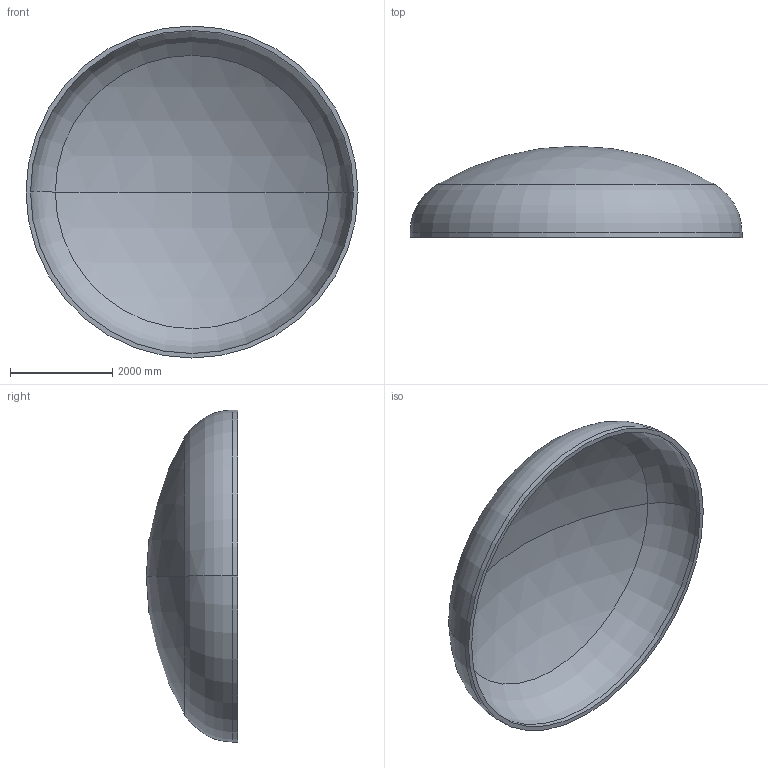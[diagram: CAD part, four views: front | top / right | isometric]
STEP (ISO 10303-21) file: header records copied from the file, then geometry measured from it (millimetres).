
FILE_DESCRIPTION (( 'STEP AP203' ), '1' );
FILE_NAME ('DIN 28013 Korbbogenform_-_Boden DIN 28013 - 6500 x 100 - I - s=88.step', '2016-07-04T10:43:36', ( '' ), ( '' ), 'SwSTEP 2.0', 'SolidWorks 2013', '' );
FILE_SCHEMA (( 'CONFIG_CONTROL_DESIGN' ));
Length unit declared in the file: millimetre
Products named in the file (1): DIN 28013 Korbbogenform_-_Boden DIN 28013 - 6500 x 100 - I - s=88
Bounding box: 6500 x 1787.2 x 6500 mm (x, y, z)
Volume: 4149082516.7 mm3; surface area: 96086175.6 mm2
Topology: 1 solids, 1 shells, 13 faces, 24 edges, 14 vertices
Faces by surface type: torus 4, cylinder 4, sphere 4, plane 1
Entity records: 407 total; most frequent: DIRECTION 72, CARTESIAN_POINT 52, ORIENTED_EDGE 48, AXIS2_PLACEMENT_3D 34, EDGE_CURVE 24, CIRCLE 20, VERTEX_POINT 14, EDGE_LOOP 14
